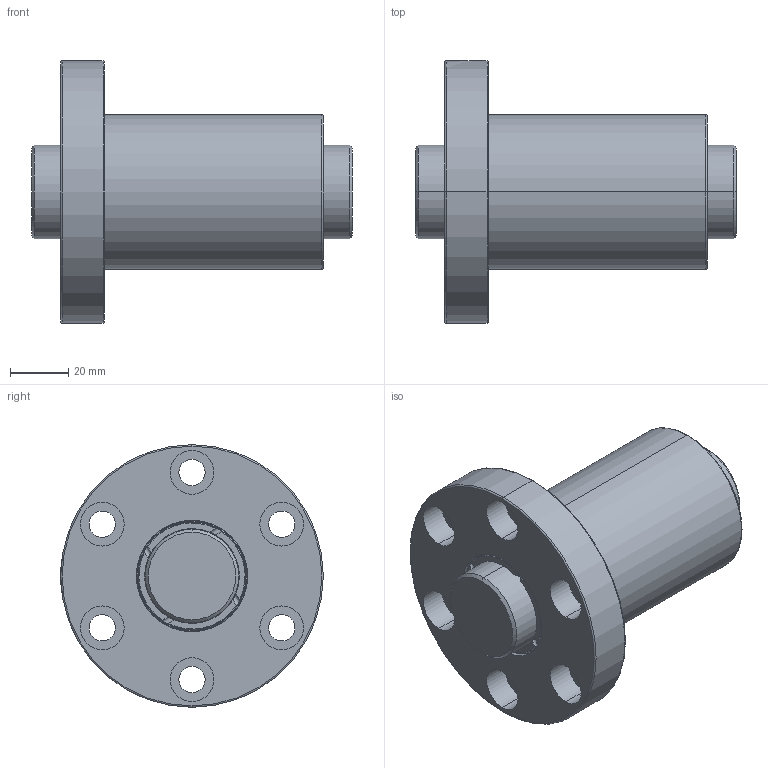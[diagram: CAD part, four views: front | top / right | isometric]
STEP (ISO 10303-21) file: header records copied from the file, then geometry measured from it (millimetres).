
FILE_DESCRIPTION (( 'STEP AP203' ), '1' );
FILE_NAME ('SFZR03210T4N-C.STEP', '2020-06-18T00:59:48', ( '' ), ( '' ), 'SwSTEP 2.0', 'SolidWorks 2013', '' );
FILE_SCHEMA (( 'CONFIG_CONTROL_DESIGN' ));
Length unit declared in the file: millimetre
Products named in the file (1): SFZR03210T4N-C
Bounding box: 110 x 90 x 90 mm (x, y, z)
Volume: 256746.9 mm3; surface area: 56268.9 mm2
Topology: 2 solids, 2 shells, 122 faces, 304 edges, 196 vertices
Faces by surface type: cylinder 66, torus 26, plane 26, cone 4
Entity records: 4847 total; most frequent: CARTESIAN_POINT 1799, DIRECTION 648, ORIENTED_EDGE 608, EDGE_CURVE 304, AXIS2_PLACEMENT_3D 287, VERTEX_POINT 196, CIRCLE 164, EDGE_LOOP 150
